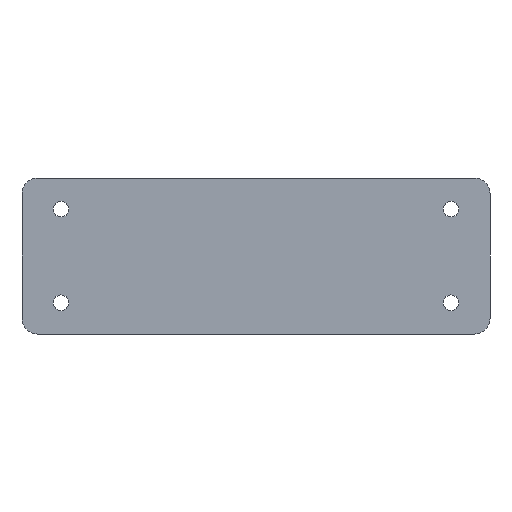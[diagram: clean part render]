
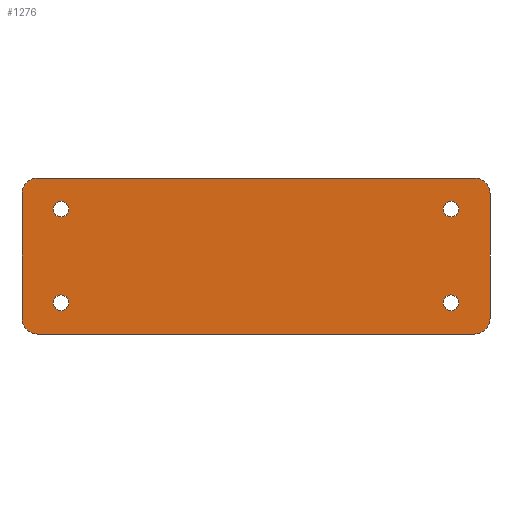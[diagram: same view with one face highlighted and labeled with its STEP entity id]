
A CAD part, front view. The second image highlights one B-rep face of the part: STEP entity #1276.
In plain terms, the highlighted planar face has unit normal (0, -1, 0).
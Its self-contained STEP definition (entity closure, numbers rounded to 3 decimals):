
#20 = EDGE_CURVE ( 'NONE', #1946, #1594, #2591, .T. ) ;
#36 = DIRECTION ( 'NONE',  ( 0., 0., 1. ) ) ;
#37 = CIRCLE ( 'NONE', #2124, 2.5 ) ;
#62 = VERTEX_POINT ( 'NONE', #1366 ) ;
#92 = CARTESIAN_POINT ( 'NONE',  ( -70., 0., -20. ) ) ;
#93 = CARTESIAN_POINT ( 'NONE',  ( 75., 0., 20. ) ) ;
#130 = CARTESIAN_POINT ( 'NONE',  ( -62.5, 0., -17.5 ) ) ;
#145 = CARTESIAN_POINT ( 'NONE',  ( -70., 0., -25. ) ) ;
#177 = AXIS2_PLACEMENT_3D ( 'NONE', #227, #2086, #2111 ) ;
#201 = ORIENTED_EDGE ( 'NONE', *, *, #611, .F. ) ;
#222 = DIRECTION ( 'NONE',  ( 0., 1., 0. ) ) ;
#227 = CARTESIAN_POINT ( 'NONE',  ( 62.5, 0., -15. ) ) ;
#240 = LINE ( 'NONE', #907, #2169 ) ;
#242 = EDGE_CURVE ( 'NONE', #1594, #62, #1009, .T. ) ;
#260 = CARTESIAN_POINT ( 'NONE',  ( -62.5, 0., -12.5 ) ) ;
#293 = DIRECTION ( 'NONE',  ( 0., 0., 1. ) ) ;
#310 = DIRECTION ( 'NONE',  ( 0., 1., 0. ) ) ;
#313 = PLANE ( 'NONE',  #2356 ) ;
#315 = AXIS2_PLACEMENT_3D ( 'NONE', #2716, #2726, #1032 ) ;
#316 = EDGE_CURVE ( 'NONE', #2698, #1741, #1751, .T. ) ;
#367 = CARTESIAN_POINT ( 'NONE',  ( -70., 0., 25. ) ) ;
#373 = ORIENTED_EDGE ( 'NONE', *, *, #1527, .T. ) ;
#405 = EDGE_CURVE ( 'NONE', #653, #520, #1003, .T. ) ;
#411 = CIRCLE ( 'NONE', #2287, 2.5 ) ;
#434 = ORIENTED_EDGE ( 'NONE', *, *, #20, .F. ) ;
#439 = LINE ( 'NONE', #454, #1926 ) ;
#454 = CARTESIAN_POINT ( 'NONE',  ( 75., 0., -20. ) ) ;
#462 = VECTOR ( 'NONE', #604, 1000. ) ;
#467 = CARTESIAN_POINT ( 'NONE',  ( 70., 0., 20. ) ) ;
#485 = ORIENTED_EDGE ( 'NONE', *, *, #316, .F. ) ;
#496 = ORIENTED_EDGE ( 'NONE', *, *, #2071, .F. ) ;
#506 = FACE_BOUND ( 'NONE', #2721, .T. ) ;
#520 = VERTEX_POINT ( 'NONE', #1643 ) ;
#529 = DIRECTION ( 'NONE',  ( 0., 1., 0. ) ) ;
#553 = ORIENTED_EDGE ( 'NONE', *, *, #1978, .T. ) ;
#554 = EDGE_CURVE ( 'NONE', #2041, #1891, #1491, .T. ) ;
#562 = FACE_OUTER_BOUND ( 'NONE', #971, .T. ) ;
#598 = DIRECTION ( 'NONE',  ( 0., 0., 1. ) ) ;
#604 = DIRECTION ( 'NONE',  ( 0., 0., 1. ) ) ;
#611 = EDGE_CURVE ( 'NONE', #1741, #1723, #1779, .T. ) ;
#642 = DIRECTION ( 'NONE',  ( 0., 1., 0. ) ) ;
#653 = VERTEX_POINT ( 'NONE', #1936 ) ;
#658 = VERTEX_POINT ( 'NONE', #918 ) ;
#679 = CARTESIAN_POINT ( 'NONE',  ( -75., 0., -20. ) ) ;
#698 = FACE_BOUND ( 'NONE', #1236, .T. ) ;
#745 = DIRECTION ( 'NONE',  ( 0., 0., 1. ) ) ;
#785 = DIRECTION ( 'NONE',  ( 0., 1., 0. ) ) ;
#788 = EDGE_LOOP ( 'NONE', ( #1288, #1227 ) ) ;
#795 = CARTESIAN_POINT ( 'NONE',  ( -62.5, 0., 15. ) ) ;
#797 = ORIENTED_EDGE ( 'NONE', *, *, #242, .F. ) ;
#801 = AXIS2_PLACEMENT_3D ( 'NONE', #2432, #2697, #2237 ) ;
#803 = VECTOR ( 'NONE', #2077, 1000. ) ;
#856 = DIRECTION ( 'NONE',  ( 0., 0., -1. ) ) ;
#857 = FACE_BOUND ( 'NONE', #2539, .T. ) ;
#900 = CARTESIAN_POINT ( 'NONE',  ( 70., 0., 25. ) ) ;
#907 = CARTESIAN_POINT ( 'NONE',  ( -70., 0., -25. ) ) ;
#909 = ORIENTED_EDGE ( 'NONE', *, *, #2527, .T. ) ;
#918 = CARTESIAN_POINT ( 'NONE',  ( 75., 0., -20. ) ) ;
#945 = CARTESIAN_POINT ( 'NONE',  ( 62.5, 0., 17.5 ) ) ;
#953 = AXIS2_PLACEMENT_3D ( 'NONE', #467, #642, #1505 ) ;
#971 = EDGE_LOOP ( 'NONE', ( #1886, #496, #201, #485, #2120, #797, #434, #1135 ) ) ;
#1003 = CIRCLE ( 'NONE', #2175, 2.5 ) ;
#1009 = LINE ( 'NONE', #2707, #462 ) ;
#1032 = DIRECTION ( 'NONE',  ( 0., 0., 1. ) ) ;
#1079 = CIRCLE ( 'NONE', #1670, 2.5 ) ;
#1114 = DIRECTION ( 'NONE',  ( -1., 0., 0. ) ) ;
#1135 = ORIENTED_EDGE ( 'NONE', *, *, #1707, .F. ) ;
#1183 = CARTESIAN_POINT ( 'NONE',  ( 62.5, 0., 15. ) ) ;
#1203 = FACE_BOUND ( 'NONE', #788, .T. ) ;
#1219 = DIRECTION ( 'NONE',  ( 0., 0., 1. ) ) ;
#1227 = ORIENTED_EDGE ( 'NONE', *, *, #1444, .T. ) ;
#1234 = DIRECTION ( 'NONE',  ( 0., 0., 1. ) ) ;
#1236 = EDGE_LOOP ( 'NONE', ( #373, #553 ) ) ;
#1243 = CARTESIAN_POINT ( 'NONE',  ( -70., 0., 25. ) ) ;
#1276 = ADVANCED_FACE ( 'NONE', ( #698, #1203, #562, #506, #857 ), #313, .F. ) ;
#1288 = ORIENTED_EDGE ( 'NONE', *, *, #1415, .T. ) ;
#1366 = CARTESIAN_POINT ( 'NONE',  ( -75., 0., 20. ) ) ;
#1408 = CARTESIAN_POINT ( 'NONE',  ( 62.5, 0., -15. ) ) ;
#1415 = EDGE_CURVE ( 'NONE', #2417, #2039, #1676, .T. ) ;
#1444 = EDGE_CURVE ( 'NONE', #2039, #2417, #1739, .T. ) ;
#1474 = CARTESIAN_POINT ( 'NONE',  ( -62.5, 0., 12.5 ) ) ;
#1491 = CIRCLE ( 'NONE', #315, 2.5 ) ;
#1505 = DIRECTION ( 'NONE',  ( 0., 0., 1. ) ) ;
#1527 = EDGE_CURVE ( 'NONE', #2571, #2611, #37, .T. ) ;
#1535 = DIRECTION ( 'NONE',  ( 0., 1., 0. ) ) ;
#1550 = CARTESIAN_POINT ( 'NONE',  ( 70., 0., -20. ) ) ;
#1551 = CARTESIAN_POINT ( 'NONE',  ( -70., 0., 20. ) ) ;
#1553 = AXIS2_PLACEMENT_3D ( 'NONE', #795, #785, #2273 ) ;
#1586 = ORIENTED_EDGE ( 'NONE', *, *, #554, .T. ) ;
#1594 = VERTEX_POINT ( 'NONE', #679 ) ;
#1595 = CIRCLE ( 'NONE', #177, 2.5 ) ;
#1601 = CARTESIAN_POINT ( 'NONE',  ( 70., 0., -25. ) ) ;
#1620 = DIRECTION ( 'NONE',  ( 0., 1., 0. ) ) ;
#1643 = CARTESIAN_POINT ( 'NONE',  ( 62.5, 0., -17.5 ) ) ;
#1670 = AXIS2_PLACEMENT_3D ( 'NONE', #1915, #1716, #36 ) ;
#1676 = CIRCLE ( 'NONE', #2305, 2.5 ) ;
#1707 = EDGE_CURVE ( 'NONE', #2000, #1946, #240, .T. ) ;
#1716 = DIRECTION ( 'NONE',  ( 0., 1., 0. ) ) ;
#1717 = EDGE_CURVE ( 'NONE', #62, #2698, #2014, .T. ) ;
#1723 = VERTEX_POINT ( 'NONE', #93 ) ;
#1739 = CIRCLE ( 'NONE', #1553, 2.5 ) ;
#1741 = VERTEX_POINT ( 'NONE', #900 ) ;
#1751 = LINE ( 'NONE', #1243, #803 ) ;
#1762 = DIRECTION ( 'NONE',  ( 0., 0., 1. ) ) ;
#1779 = CIRCLE ( 'NONE', #953, 5. ) ;
#1809 = ORIENTED_EDGE ( 'NONE', *, *, #405, .T. ) ;
#1861 = EDGE_CURVE ( 'NONE', #658, #2000, #1955, .T. ) ;
#1873 = AXIS2_PLACEMENT_3D ( 'NONE', #1551, #310, #1762 ) ;
#1886 = ORIENTED_EDGE ( 'NONE', *, *, #1861, .F. ) ;
#1891 = VERTEX_POINT ( 'NONE', #130 ) ;
#1915 = CARTESIAN_POINT ( 'NONE',  ( -62.5, 0., -15. ) ) ;
#1926 = VECTOR ( 'NONE', #856, 1000. ) ;
#1928 = CARTESIAN_POINT ( 'NONE',  ( -62.5, 0., 17.5 ) ) ;
#1936 = CARTESIAN_POINT ( 'NONE',  ( 62.5, 0., -12.5 ) ) ;
#1946 = VERTEX_POINT ( 'NONE', #145 ) ;
#1955 = CIRCLE ( 'NONE', #801, 5. ) ;
#1978 = EDGE_CURVE ( 'NONE', #2611, #2571, #411, .T. ) ;
#2000 = VERTEX_POINT ( 'NONE', #1601 ) ;
#2014 = CIRCLE ( 'NONE', #1873, 5. ) ;
#2039 = VERTEX_POINT ( 'NONE', #1928 ) ;
#2041 = VERTEX_POINT ( 'NONE', #260 ) ;
#2059 = DIRECTION ( 'NONE',  ( 0., 1., 0. ) ) ;
#2071 = EDGE_CURVE ( 'NONE', #1723, #658, #439, .T. ) ;
#2077 = DIRECTION ( 'NONE',  ( 1., 0., 0. ) ) ;
#2086 = DIRECTION ( 'NONE',  ( 0., 1., 0. ) ) ;
#2111 = DIRECTION ( 'NONE',  ( 0., 0., 1. ) ) ;
#2120 = ORIENTED_EDGE ( 'NONE', *, *, #1717, .F. ) ;
#2124 = AXIS2_PLACEMENT_3D ( 'NONE', #2534, #222, #1219 ) ;
#2169 = VECTOR ( 'NONE', #1114, 1000. ) ;
#2170 = CARTESIAN_POINT ( 'NONE',  ( 62.5, 0., 12.5 ) ) ;
#2175 = AXIS2_PLACEMENT_3D ( 'NONE', #1408, #1620, #745 ) ;
#2178 = DIRECTION ( 'NONE',  ( 0., 0., 1. ) ) ;
#2237 = DIRECTION ( 'NONE',  ( 0., 0., 1. ) ) ;
#2273 = DIRECTION ( 'NONE',  ( 0., 0., 1. ) ) ;
#2287 = AXIS2_PLACEMENT_3D ( 'NONE', #1183, #2059, #1234 ) ;
#2305 = AXIS2_PLACEMENT_3D ( 'NONE', #2474, #2715, #598 ) ;
#2326 = ORIENTED_EDGE ( 'NONE', *, *, #2393, .T. ) ;
#2356 = AXIS2_PLACEMENT_3D ( 'NONE', #1550, #529, #2178 ) ;
#2393 = EDGE_CURVE ( 'NONE', #520, #653, #1595, .T. ) ;
#2417 = VERTEX_POINT ( 'NONE', #1474 ) ;
#2432 = CARTESIAN_POINT ( 'NONE',  ( 70., 0., -20. ) ) ;
#2474 = CARTESIAN_POINT ( 'NONE',  ( -62.5, 0., 15. ) ) ;
#2527 = EDGE_CURVE ( 'NONE', #1891, #2041, #1079, .T. ) ;
#2534 = CARTESIAN_POINT ( 'NONE',  ( 62.5, 0., 15. ) ) ;
#2539 = EDGE_LOOP ( 'NONE', ( #2326, #1809 ) ) ;
#2571 = VERTEX_POINT ( 'NONE', #2170 ) ;
#2585 = AXIS2_PLACEMENT_3D ( 'NONE', #92, #1535, #293 ) ;
#2591 = CIRCLE ( 'NONE', #2585, 5. ) ;
#2611 = VERTEX_POINT ( 'NONE', #945 ) ;
#2697 = DIRECTION ( 'NONE',  ( 0., 1., 0. ) ) ;
#2698 = VERTEX_POINT ( 'NONE', #367 ) ;
#2707 = CARTESIAN_POINT ( 'NONE',  ( -75., 0., -20. ) ) ;
#2715 = DIRECTION ( 'NONE',  ( 0., 1., 0. ) ) ;
#2716 = CARTESIAN_POINT ( 'NONE',  ( -62.5, 0., -15. ) ) ;
#2721 = EDGE_LOOP ( 'NONE', ( #909, #1586 ) ) ;
#2726 = DIRECTION ( 'NONE',  ( 0., 1., 0. ) ) ;
